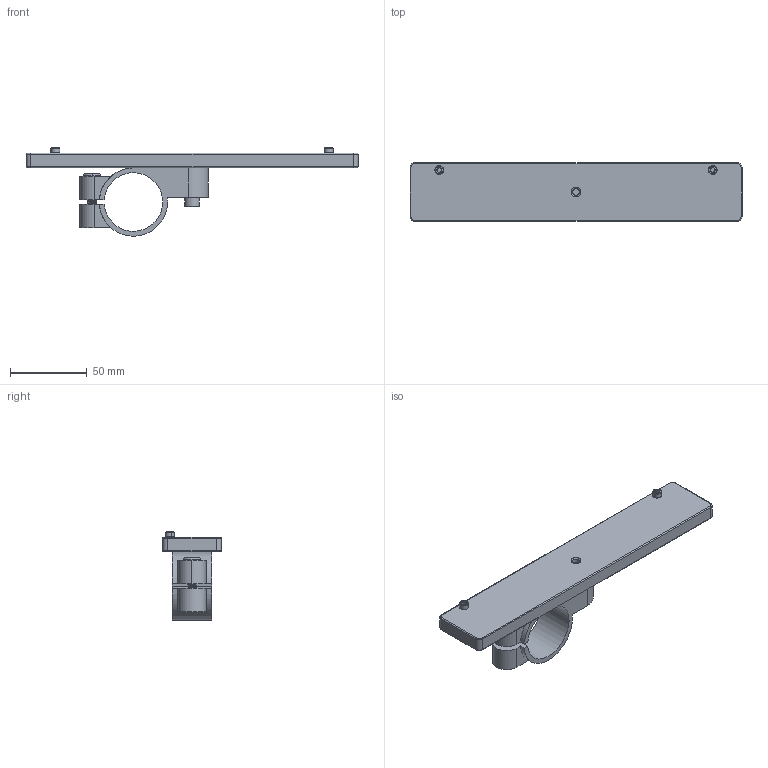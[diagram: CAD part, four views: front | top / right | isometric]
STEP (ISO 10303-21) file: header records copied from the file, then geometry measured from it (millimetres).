
FILE_DESCRIPTION (( 'STEP AP203' ), '1' );
FILE_NAME ('ASG-AC2500-CM-B.STEP', '2013-01-11T14:57:48', ( '' ), ( '' ), 'SwSTEP 2.0', 'SolidWorks 2012', '' );
FILE_SCHEMA (( 'CONFIG_CONTROL_DESIGN' ));
Length unit declared in the file: inch
Products named in the file (6): ASG-AC2500-CM-B; MTQ10188_91251A146; 97135A210_97135A210; MTQ10187_90128A247; 451-065035; MTQ10186
Assembly tree (7 placements, depth 2):
  ASG-AC2500-CM-B
    MTQ10186
    451-065035
    MTQ10187_90128A247  x2
    97135A210_97135A210
    MTQ10188_91251A146  x2
Bounding box: 215.9 x 38.1 x 57.47 mm (x, y, z)
Volume: 105404 mm3; surface area: 39914.8 mm2
Topology: 8 solids, 8 shells, 591 faces, 1529 edges, 971 vertices
Faces by surface type: cylinder 340, plane 127, cone 90, torus 26, bspline 8
Entity records: 16788 total; most frequent: CARTESIAN_POINT 7043, ORIENTED_EDGE 2066, DIRECTION 1752, EDGE_CURVE 1033, AXIS2_PLACEMENT_3D 652, VERTEX_POINT 651, VECTOR 448, LINE 448
